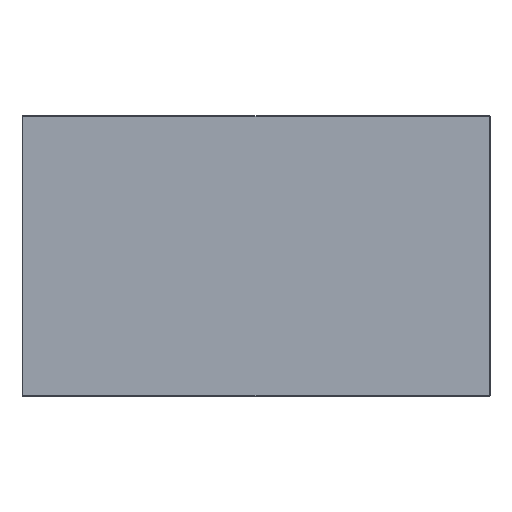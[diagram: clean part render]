
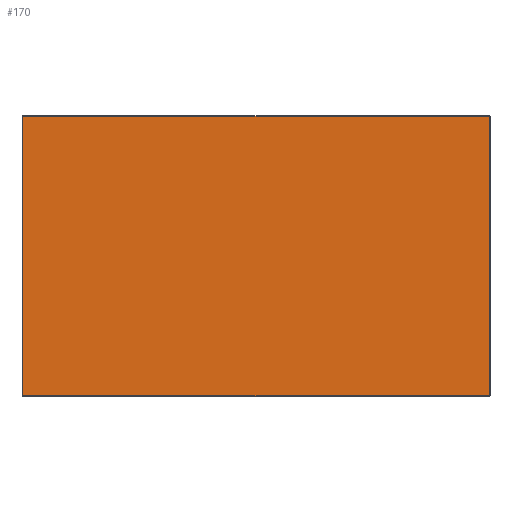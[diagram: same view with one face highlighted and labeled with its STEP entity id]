
A CAD part, top view. The second image highlights one B-rep face of the part: STEP entity #170.
In plain terms, the highlighted planar face has unit normal (0, 0, 1).
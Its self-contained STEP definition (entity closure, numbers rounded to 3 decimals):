
#170=ADVANCED_FACE('',(#360),#2538,.T.);
#360=FACE_OUTER_BOUND('',#550,.T.);
#550=EDGE_LOOP('',(#1188,#1189,#1190,#1191));
#1188=ORIENTED_EDGE('',*,*,#1679,.F.);
#1189=ORIENTED_EDGE('',*,*,#1677,.F.);
#1190=ORIENTED_EDGE('',*,*,#1678,.F.);
#1191=ORIENTED_EDGE('',*,*,#1676,.F.);
#1676=EDGE_CURVE('',#2332,#2333,#2140,.T.);
#1677=EDGE_CURVE('',#2334,#2335,#2141,.T.);
#1678=EDGE_CURVE('',#2333,#2334,#2142,.T.);
#1679=EDGE_CURVE('',#2335,#2332,#2143,.T.);
#2140=B_SPLINE_CURVE_WITH_KNOTS('',1,(#5157,#5158),.UNSPECIFIED.,.F.,.F.,
(2,2),(1.5,998.5),.UNSPECIFIED.);
#2141=B_SPLINE_CURVE_WITH_KNOTS('',1,(#5159,#5160),.UNSPECIFIED.,.F.,.F.,
(2,2),(1.5,998.5),.UNSPECIFIED.);
#2142=B_SPLINE_CURVE_WITH_KNOTS('',1,(#5161,#5162),.UNSPECIFIED.,.F.,.F.,
(2,2),(1.5,598.5),.UNSPECIFIED.);
#2143=B_SPLINE_CURVE_WITH_KNOTS('',1,(#5163,#5164),.UNSPECIFIED.,.F.,.F.,
(2,2),(1.5,598.5),.UNSPECIFIED.);
#2332=VERTEX_POINT('',#5117);
#2333=VERTEX_POINT('',#5118);
#2334=VERTEX_POINT('',#5119);
#2335=VERTEX_POINT('',#5120);
#2538=PLANE('',#2602);
#2602=AXIS2_PLACEMENT_3D('',#4907,#2650,$);
#2650=DIRECTION('',(0.,0.,1.));
#4907=CARTESIAN_POINT('',(500.,-300.,430.));
#5117=CARTESIAN_POINT('',(498.5,-298.5,430.));
#5118=CARTESIAN_POINT('',(-498.5,-298.5,430.));
#5119=CARTESIAN_POINT('',(-498.5,298.5,430.));
#5120=CARTESIAN_POINT('',(498.5,298.5,430.));
#5157=CARTESIAN_POINT('',(498.5,-298.5,430.));
#5158=CARTESIAN_POINT('',(-498.5,-298.5,430.));
#5159=CARTESIAN_POINT('',(-498.5,298.5,430.));
#5160=CARTESIAN_POINT('',(498.5,298.5,430.));
#5161=CARTESIAN_POINT('',(-498.5,-298.5,430.));
#5162=CARTESIAN_POINT('',(-498.5,298.5,430.));
#5163=CARTESIAN_POINT('',(498.5,298.5,430.));
#5164=CARTESIAN_POINT('',(498.5,-298.5,430.));
